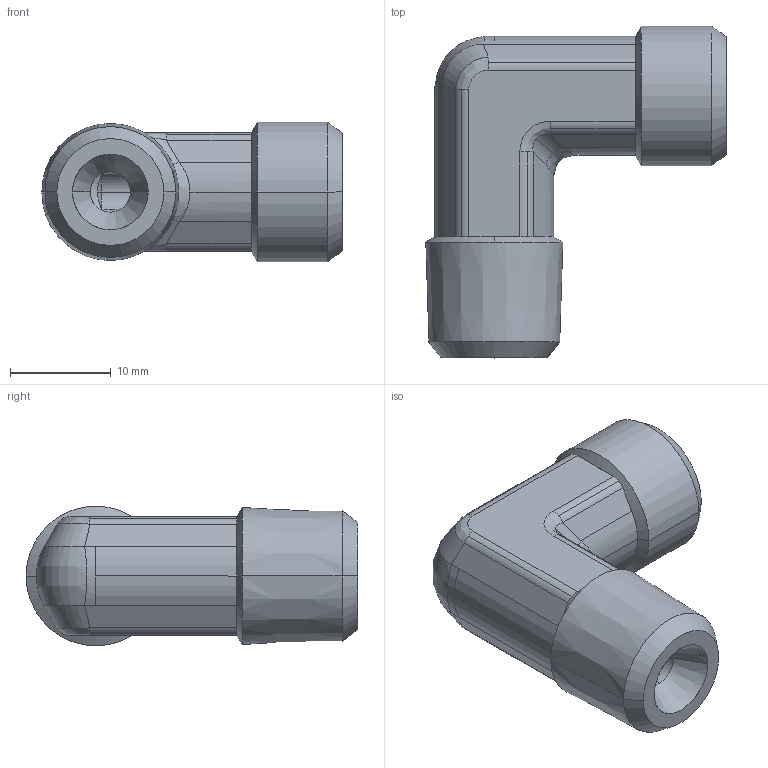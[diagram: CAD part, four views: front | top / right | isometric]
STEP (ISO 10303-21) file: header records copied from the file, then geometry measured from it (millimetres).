
FILE_DESCRIPTION((''),'2;1');
FILE_NAME('102014.stp','2007-10-30T16:28:19',(''),(''),'AutoCAD STEP 2000i','AutoCAD 2000i',', , ');
FILE_SCHEMA(('CONFIG_CONTROL_DESIGN'));
Length unit declared in the file: millimetre
Products named in the file (2): 102014.0; 3090#0
Assembly tree (1 placements, depth 2):
  102014.0
    3090#0
Bounding box: 29.8 x 32.92 x 13.85 mm (x, y, z)
Volume: 5324.4 mm3; surface area: 2841 mm2
Topology: 1 solids, 1 shells, 104 faces, 238 edges, 137 vertices
Faces by surface type: cylinder 42, plane 25, cone 23, bspline 14
Entity records: 3770 total; most frequent: CARTESIAN_POINT 1315, DIRECTION 529, ORIENTED_EDGE 476, EDGE_CURVE 238, AXIS2_PLACEMENT_3D 219, VERTEX_POINT 137, CIRCLE 109, EDGE_LOOP 107
